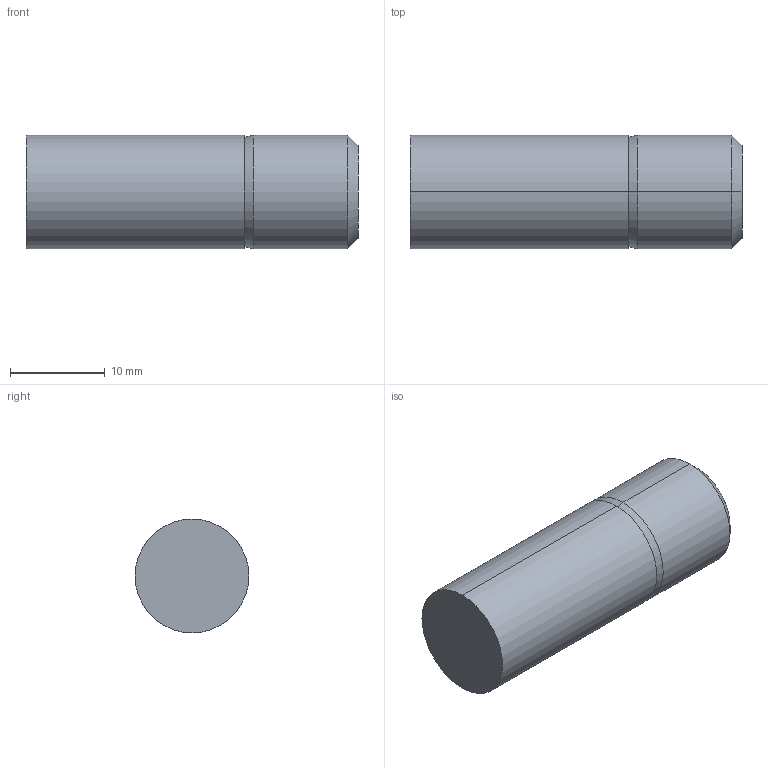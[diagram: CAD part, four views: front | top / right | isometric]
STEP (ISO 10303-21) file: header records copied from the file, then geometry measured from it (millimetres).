
FILE_DESCRIPTION (( 'STEP AP203' ), '1' );
FILE_NAME ('S3-12.STEP', '2002-08-16T10:49:26', ( '.' ), ( '.' ), 'SwSTEP 2.0', 'SolidWorks 2001340', '' );
FILE_SCHEMA (( 'CONFIG_CONTROL_DESIGN' ));
Length unit declared in the file: millimetre
Products named in the file (1): S3-12
Bounding box: 35 x 12 x 12 mm (x, y, z)
Volume: 3933.2 mm3; surface area: 1530.3 mm2
Topology: 1 solids, 1 shells, 11 faces, 20 edges, 12 vertices
Faces by surface type: cone 4, cylinder 4, plane 3
Entity records: 351 total; most frequent: DIRECTION 56, CARTESIAN_POINT 44, ORIENTED_EDGE 40, AXIS2_PLACEMENT_3D 24, EDGE_CURVE 20, EDGE_LOOP 12, VERTEX_POINT 12, CIRCLE 12
